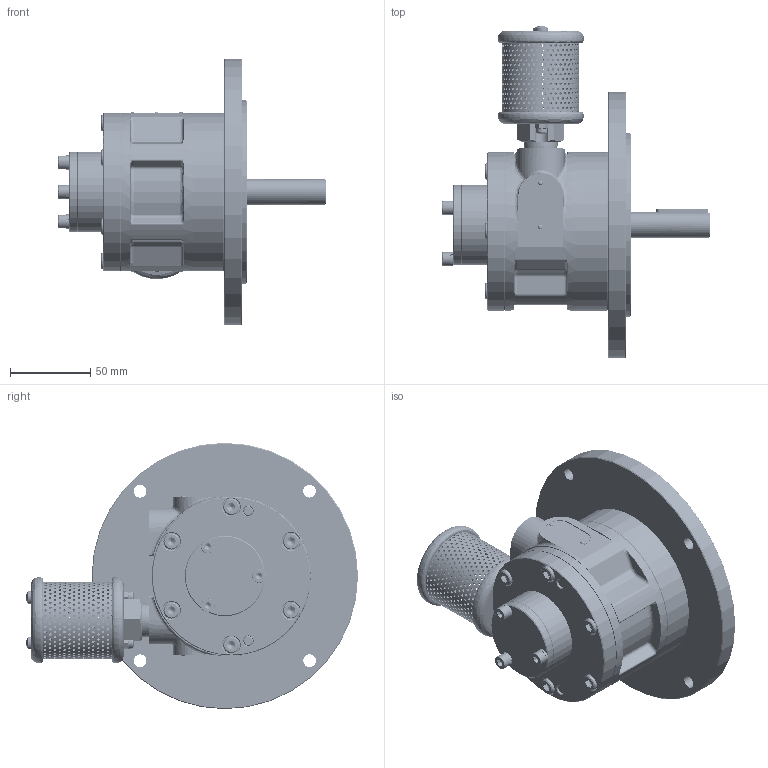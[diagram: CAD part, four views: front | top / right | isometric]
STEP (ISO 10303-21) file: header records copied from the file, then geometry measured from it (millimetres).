
FILE_DESCRIPTION (( 'STEP AP214' ), '1' );
FILE_NAME ('4VMN-SGI (22-04-26).STEP', '2026-04-22T10:49:39', ( '' ), ( '' ), 'SwSTEP 2.0', 'SolidWorks 2017', '' );
FILE_SCHEMA (( 'AUTOMOTIVE_DESIGN' ));
Length unit declared in the file: millimetre
Products named in the file (2): 4VMN-SGI (22-04-26)
Bounding box: 166.65 x 206.93 x 166 mm (x, y, z)
Volume: 570635.9 mm3; surface area: 202936.1 mm2
Topology: 42 solids, 42 shells, 3409 faces, 9290 edges, 5948 vertices
Faces by surface type: cylinder 2102, plane 560, cone 543, bspline 204
Entity records: 164785 total; most frequent: CARTESIAN_POINT 71073, ORIENTED_EDGE 18412, DIRECTION 14004, EDGE_CURVE 9206, VERTEX_POINT 5948, AXIS2_PLACEMENT_3D 5324, EDGE_LOOP 5056, B_SPLINE_CURVE_WITH_KNOTS 3648
